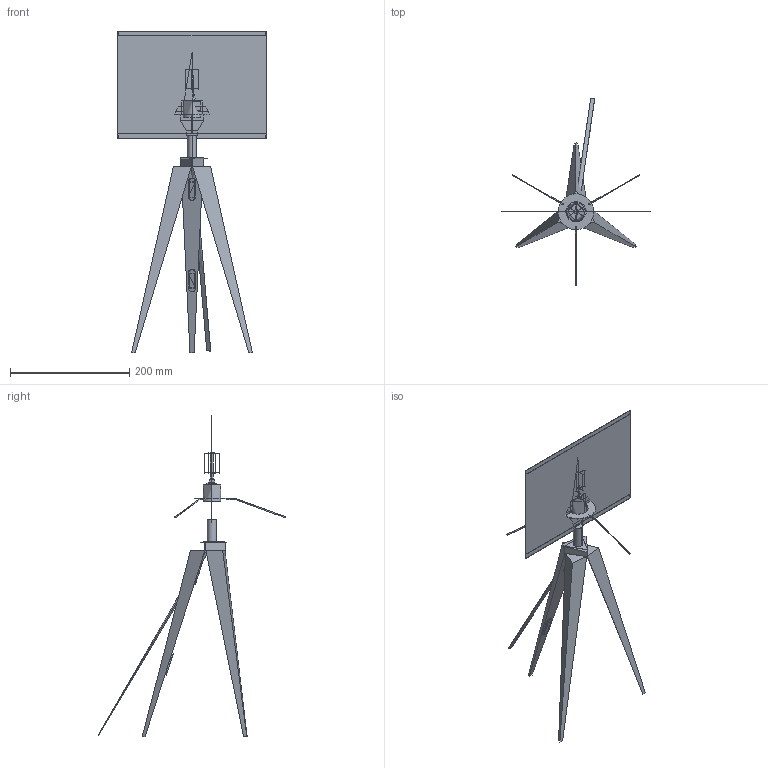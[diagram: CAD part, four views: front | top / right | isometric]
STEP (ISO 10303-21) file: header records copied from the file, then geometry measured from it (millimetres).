
FILE_DESCRIPTION(/* description */ (''),/* implementation_level */ '2;1');
FILE_NAME(/* name */ '25TRI~1',/* time_stamp */ '2017-03-06T17:49:36+08:00',/* author */ (''),/* organization */ (''),/* preprocessor_version */ 'ST-DEVELOPER v15',/* originating_system */ '',/* authorisation */ '');
FILE_SCHEMA (('AUTOMOTIVE_DESIGN_CC2'));
Length unit declared in the file: millimetre
Products named in the file (1): Document
Bounding box: 250 x 313.48 x 538.9 mm (x, y, z)
Volume: 434407.9 mm3; surface area: 452682.7 mm2
Topology: 35 solids, 38 shells, 312 faces, 673 edges, 409 vertices
Faces by surface type: bspline 252, plane 60
Entity records: 21076 total; most frequent: CARTESIAN_POINT 16851, ORIENTED_EDGE 1306, EDGE_CURVE 661, VERTEX_POINT 408, EDGE_LOOP 326, ADVANCED_FACE 312, FACE_OUTER_BOUND 312, B_SPLINE_CURVE_WITH_KNOTS 232
